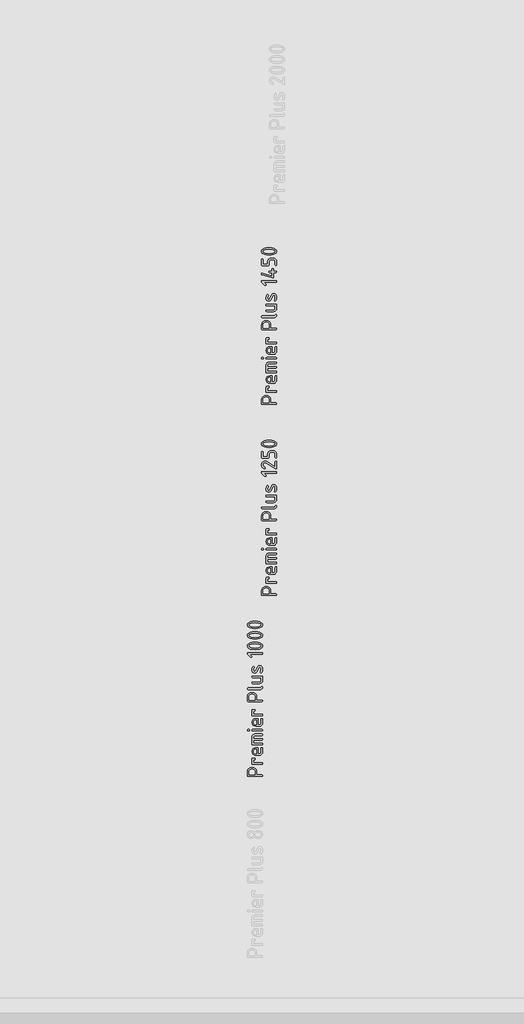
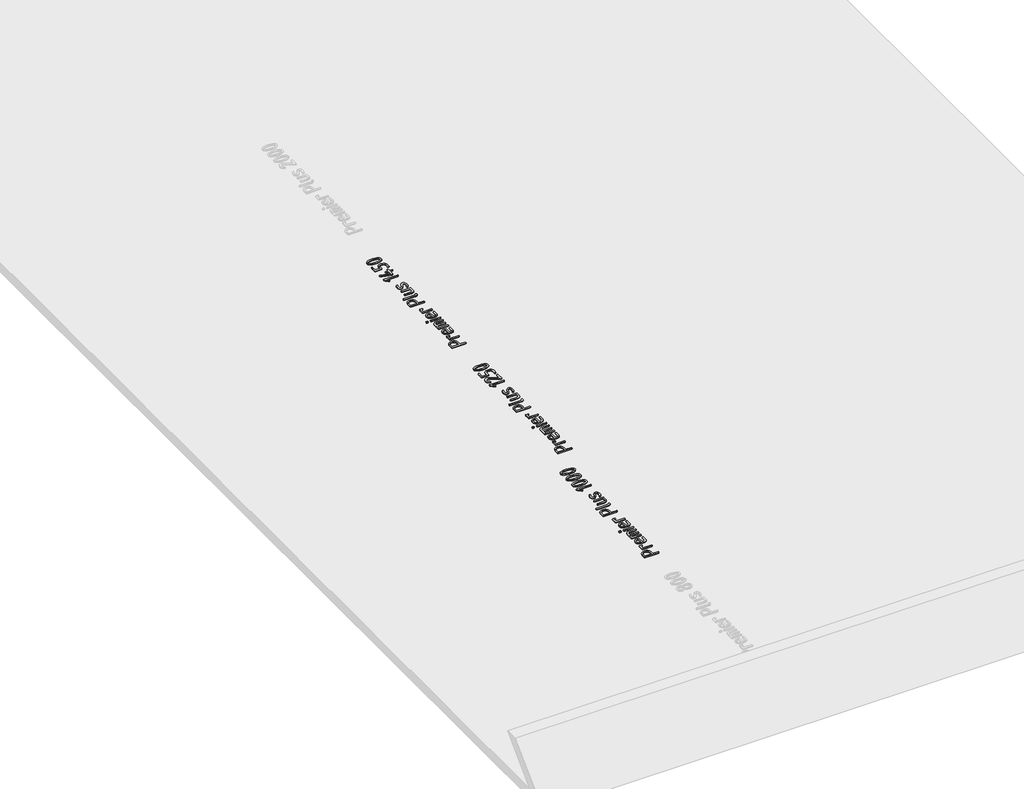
# One storey, part 22 of 37: 3 proxies.
"""IFC4 building model written with IfcOpenShell, lengths in millimetres."""

from ifc_helpers import new_model, si_unit, frame, origin, place, context, project, spatial, polyline, outline, extrude, element, save

model = new_model("IFC4")

# Units and contexts
model_context = context("Model", 3, world=origin())
ifc_project = project(units=[si_unit("LENGTHUNIT", "METRE", prefix="MILLI")], contexts=[model_context])

# Site, building, storey
site = spatial("IfcSite", under=ifc_project)
building = spatial("IfcBuilding", under=site)
storey = spatial("IfcBuildingStorey", under=building, Name="01_Стартовый вид_Площадка", Elevation=0.0)

# Proxies
placement = place(None, origin())
element("IfcBuildingElementProxy", 1, Name="150 мм", ObjectType="150 мм", at=placement, inside=storey, context=model_context, shape_type="SweptSolid", body=[
    extrude(outline(polyline([(30544.4863843, -15368.7582704), (30544.4863843, -15331.4834256), (30547.8423188, -15314.2293275), (30557.9101226, -15299.7818294), (30572.7721185, -15289.9986808), (30590.5106299, -15286.7376313), (30609.0481732, -15289.8288865), (30623.7503628, -15299.1026521), (30633.3387473, -15313.3204285), (30636.5348755, -15331.243716), (30636.5348755, -15360.8878048), (30687.9925389, -15360.8878048), (30693.50586, -15362.8054817), (30695.3436337, -15368.5585124), (30693.4559205, -15374.3115431), (30687.7927809, -15376.22922), (30552.0372371, -15376.22922), (30546.3740975, -15374.3614826), (30544.4863843, -15368.7582704)]), holes=[polyline([(30559.8277995, -15360.8878048), (30621.1934603, -15360.8878048), (30621.1934603, -15331.4834256), (30618.9711524, -15320.0922251), (30612.3042288, -15310.6087135), (30602.4112133, -15304.2114633), (30590.5106299, -15302.0790465), (30578.6100464, -15304.2114633), (30568.7170309, -15310.6087135), (30562.0501073, -15320.0922251), (30559.8277995, -15331.4834256), (30559.8277995, -15360.8878048)])]), frame((0.0, 0.0, 11.1696829), z_axis=(0.0, 0.0, 1.0), x_axis=(1.0, 0.0, 0.0)), (0.0, 0.0, 1.0), 10.0),
    extrude(outline(polyline([(30597.9815795, -15256.0548009), (30592.3783673, -15254.137124), (30590.5106299, -15248.3840933), (30590.5106299, -15203.1988314), (30592.4283068, -15197.5956192), (30598.1813375, -15195.7278818), (30613.3629463, -15195.7278818), (30618.9961221, -15197.5956192), (30620.8738474, -15203.1988314), (30618.9961221, -15208.8320073), (30613.3629463, -15210.7097326), (30605.8520451, -15210.7097326), (30605.8520451, -15240.7133857), (30687.8726841, -15240.7133857), (30693.4758963, -15242.6310626), (30695.3436337, -15248.3840933), (30693.4758963, -15254.137124), (30687.8726841, -15256.0548009), (30597.9815795, -15256.0548009)])), frame((0.0, 0.0, 11.1696829), z_axis=(0.0, 0.0, 1.0), x_axis=(1.0, 0.0, 0.0)), (0.0, 0.0, 1.0), 10.0),
    extrude(outline(polyline([(30649.3193881, -15151.2217971), (30664.6608033, -15151.2217971), (30675.4677117, -15146.7871692), (30680.0022185, -15136.2399463), (30680.0022185, -15098.7253919), (30681.9198954, -15093.092216), (30687.6729261, -15091.2144907), (30693.4259568, -15093.092216), (30695.3436337, -15098.7253919), (30695.3436337, -15136.2399463), (30693.1762593, -15147.8958262), (30686.6741361, -15157.6939566), (30677.0158363, -15164.3458983), (30665.3799322, -15166.5632123), (30627.945281, -15166.5632123), (30613.5527164, -15163.781582), (30601.4573688, -15155.4366911), (30593.2473146, -15143.196519), (30590.5106299, -15128.7290451), (30593.1674114, -15114.1517043), (30601.137756, -15102.0613507), (30612.983406, -15093.9262057), (30627.2661038, -15091.2144907), (30649.3193881, -15091.2144907), (30649.3193881, -15151.2217971)]), holes=[polyline([(30603.9743198, -15128.7290451), (30605.6223234, -15137.3585911), (30610.5663341, -15144.6297827), (30617.8375257, -15149.5737935), (30626.4670717, -15151.2217971), (30633.9779729, -15151.2217971), (30633.9779729, -15106.2362931), (30626.4670717, -15106.2362931), (30617.8375257, -15107.8842967), (30610.5663341, -15112.8283075), (30605.6223234, -15120.099499), (30603.9743198, -15128.7290451)])]), frame((0.0, 0.0, 11.1696829), z_axis=(0.0, 0.0, 1.0), x_axis=(1.0, 0.0, 0.0)), (0.0, 0.0, 1.0), 10.0),
    extrude(outline(polyline([(30590.5106299, -15054.0595008), (30590.5106299, -14985.0231324), (30592.6780043, -14973.122549), (30599.1801275, -14963.2295335), (30608.8384273, -14956.5626099), (30620.4743314, -14954.340302), (30687.8726841, -14954.340302), (30693.4758963, -14956.2579789), (30695.3436337, -14962.0110096), (30693.4758963, -14967.7640403), (30687.8726841, -14969.6817172), (30620.7539926, -14969.6817172), (30610.1468423, -14974.0963693), (30605.8520451, -14985.0231324), (30605.8520451, -15000.3645476), (30687.8726841, -15000.3645476), (30693.4758963, -15002.2822245), (30695.3436337, -15008.0352552), (30693.4758963, -15013.7882859), (30687.8726841, -15015.7059628), (30605.8520451, -15015.7059628), (30605.8520451, -15046.3887932), (30687.8726841, -15046.3887932), (30693.4758963, -15048.3064701), (30695.3436337, -15054.0595008), (30693.4758963, -15059.8125315), (30687.8726841, -15061.7302084), (30597.9815795, -15061.7302084), (30592.3783673, -15059.8125315), (30590.5106299, -15054.0595008)])), frame((0.0, 0.0, 11.1696829), z_axis=(0.0, 0.0, 1.0), x_axis=(1.0, 0.0, 0.0)), (0.0, 0.0, 1.0), 10.0),
    extrude(outline(polyline([(30597.821773, -14923.6574716), (30592.2185609, -14921.7397947), (30590.3508235, -14915.986764), (30592.2185609, -14910.2337333), (30597.821773, -14908.3160564), (30687.8327325, -14908.3160564), (30693.4659084, -14910.2337333), (30695.3436337, -14915.986764), (30693.4659084, -14921.7397947), (30687.8327325, -14923.6574716), (30597.821773, -14923.6574716)])), frame((0.0, 0.0, 11.1696829), z_axis=(0.0, 0.0, 1.0), x_axis=(1.0, 0.0, 0.0)), (0.0, 0.0, 1.0), 10.0),
    extrude(outline(polyline([(30559.5081867, -14923.6574716), (30551.9972855, -14923.6574716), (30546.3641096, -14921.7397947), (30544.4863843, -14915.986764), (30546.3641096, -14910.2337333), (30551.9972855, -14908.3160564), (30559.5081867, -14908.3160564), (30565.1413625, -14910.2337333), (30567.0190878, -14915.986764), (30565.1413625, -14921.7397947), (30559.5081867, -14923.6574716)])), frame((0.0, 0.0, 11.1696829), z_axis=(0.0, 0.0, 1.0), x_axis=(1.0, 0.0, 0.0)), (0.0, 0.0, 1.0), 10.0),
    extrude(outline(polyline([(30649.3193881, -14862.2918108), (30664.6608033, -14862.2918108), (30675.4677117, -14857.857183), (30680.0022185, -14847.3099601), (30680.0022185, -14809.7954057), (30681.9198954, -14804.1622298), (30687.6729261, -14802.2845045), (30693.4259568, -14804.1622298), (30695.3436337, -14809.7954057), (30695.3436337, -14847.3099601), (30693.1762593, -14858.96584), (30686.6741361, -14868.7639704), (30677.0158363, -14875.4159121), (30665.3799322, -14877.633226), (30627.945281, -14877.633226), (30613.5527164, -14874.8515957), (30601.4573688, -14866.5067049), (30593.2473146, -14854.2665328), (30590.5106299, -14839.7990589), (30593.1674114, -14825.2217181), (30601.137756, -14813.1313645), (30612.983406, -14804.9962195), (30627.2661038, -14802.2845045), (30649.3193881, -14802.2845045), (30649.3193881, -14862.2918108)]), holes=[polyline([(30603.9743198, -14839.7990589), (30605.6223234, -14848.4286049), (30610.5663341, -14855.6997965), (30617.8375257, -14860.6438073), (30626.4670717, -14862.2918108), (30633.9779729, -14862.2918108), (30633.9779729, -14817.3063069), (30626.4670717, -14817.3063069), (30617.8375257, -14818.9543105), (30610.5663341, -14823.8983212), (30605.6223234, -14831.1695128), (30603.9743198, -14839.7990589)])]), frame((0.0, 0.0, 11.1696829), z_axis=(0.0, 0.0, 1.0), x_axis=(1.0, 0.0, 0.0)), (0.0, 0.0, 1.0), 10.0),
    extrude(outline(polyline([(30597.9815795, -14772.8002222), (30592.3783673, -14770.8825453), (30590.5106299, -14765.1295146), (30590.5106299, -14719.9442526), (30592.4283068, -14714.3410404), (30598.1813375, -14712.4733031), (30613.3629463, -14712.4733031), (30618.9961221, -14714.3410404), (30620.8738474, -14719.9442526), (30618.9961221, -14725.5774285), (30613.3629463, -14727.4551538), (30605.8520451, -14727.4551538), (30605.8520451, -14757.458807), (30687.8726841, -14757.458807), (30693.4758963, -14759.3764839), (30695.3436337, -14765.1295146), (30693.4758963, -14770.8825453), (30687.8726841, -14772.8002222), (30597.9815795, -14772.8002222)])), frame((0.0, 0.0, 11.1696829), z_axis=(0.0, 0.0, 1.0), x_axis=(1.0, 0.0, 0.0)), (0.0, 0.0, 1.0), 10.0),
    extrude(outline(polyline([(30544.4863843, -14624.6996333), (30544.4863843, -14587.4247886), (30547.8423188, -14570.1706904), (30557.9101226, -14555.7231923), (30572.7721185, -14545.9400437), (30590.5106299, -14542.6789942), (30609.0481732, -14545.7702494), (30623.7503628, -14555.0440151), (30633.3387473, -14569.2617915), (30636.5348755, -14587.1850789), (30636.5348755, -14616.8291677), (30687.9925389, -14616.8291677), (30693.50586, -14618.7468446), (30695.3436337, -14624.4998753), (30693.4559205, -14630.252906), (30687.7927809, -14632.1705829), (30552.0372371, -14632.1705829), (30546.3740975, -14630.3028455), (30544.4863843, -14624.6996333)]), holes=[polyline([(30559.8277995, -14616.8291677), (30621.1934603, -14616.8291677), (30621.1934603, -14587.4247886), (30618.9711524, -14576.033588), (30612.3042288, -14566.5500765), (30602.4112133, -14560.1528262), (30590.5106299, -14558.0204094), (30578.6100464, -14560.1528262), (30568.7170309, -14566.5500765), (30562.0501073, -14576.033588), (30559.8277995, -14587.4247886), (30559.8277995, -14616.8291677)])]), frame((0.0, 0.0, 11.1696829), z_axis=(0.0, 0.0, 1.0), x_axis=(1.0, 0.0, 0.0)), (0.0, 0.0, 1.0), 10.0),
    extrude(outline(polyline([(30552.0372371, -14511.9961638), (30546.3740975, -14510.0784869), (30544.4863843, -14504.3254562), (30546.3740975, -14498.5724255), (30552.0372371, -14496.6547486), (30672.7310269, -14496.6547486), (30677.5052434, -14494.7820173), (30680.2419281, -14489.1638232), (30682.9886008, -14483.5456292), (30687.7927809, -14481.6728979), (30693.4559205, -14483.5406353), (30695.3436337, -14489.1438474), (30693.8454486, -14498.3676736), (30689.3508934, -14505.6638349), (30682.1995566, -14510.4130816), (30672.7310269, -14511.9961638), (30552.0372371, -14511.9961638)])), frame((0.0, 0.0, 11.1696829), z_axis=(0.0, 0.0, 1.0), x_axis=(1.0, 0.0, 0.0)), (0.0, 0.0, 1.0), 10.0),
    extrude(outline(polyline([(30597.9815795, -14379.0372321), (30687.8726841, -14379.0372321), (30693.4758963, -14380.8949816), (30695.3436337, -14386.4682301), (30695.3436337, -14423.5433168), (30693.1762593, -14435.0393903), (30686.6741361, -14444.5978111), (30677.0158363, -14451.040007), (30665.3799322, -14453.1874056), (30597.9815795, -14453.1874056), (30592.3783673, -14451.2697287), (30590.5106299, -14445.516698), (30592.3783673, -14439.7636673), (30597.9815795, -14437.8459904), (30665.1002709, -14437.8459904), (30675.5875665, -14433.571169), (30680.0022185, -14423.3435588), (30680.0022185, -14394.3786473), (30597.9815795, -14394.3786473), (30592.3783673, -14392.4609704), (30590.5106299, -14386.7079397), (30592.3783673, -14380.954909), (30597.9815795, -14379.0372321)])), frame((0.0, 0.0, 11.1696829), z_axis=(0.0, 0.0, 1.0), x_axis=(1.0, 0.0, 0.0)), (0.0, 0.0, 1.0), 10.0),
    extrude(outline(polyline([(30668.8157699, -14288.7066598), (30662.6931869, -14290.294736), (30658.6281114, -14295.0589646), (30640.1704712, -14333.572309), (30630.6420142, -14344.9285518), (30616.5191228, -14348.7139661), (30605.0929646, -14346.0372088), (30596.623225, -14338.0069368), (30592.0387786, -14327.6794476), (30590.5106299, -14315.0747172), (30592.6280648, -14299.2239191), (30598.9803695, -14285.1509672), (30605.7321903, -14281.1957586), (30611.0257775, -14283.4130725), (30613.2430914, -14288.7066598), (30612.3242046, -14292.2224008), (30607.4700849, -14303.3289462), (30605.8520451, -14315.0747172), (30608.6286814, -14329.0378021), (30616.9585904, -14333.6921638), (30622.9413429, -14332.1540271), (30626.9065394, -14327.539617), (30645.5639375, -14288.7066598), (30655.0923946, -14277.440308), (30669.215286, -14273.6848574), (30681.1008876, -14276.3815906), (30689.590603, -14284.47179), (30693.905376, -14295.0290009), (30695.3436337, -14308.2429932), (30693.2261988, -14328.0889516), (30686.8738941, -14344.4790963), (30680.0022185, -14348.7139661), (30674.7086312, -14346.4966522), (30672.4913173, -14341.203065), (30673.0506398, -14338.3665012), (30677.245558, -14327.6594718), (30680.0022185, -14307.8035256), (30677.2056064, -14293.4808763), (30668.8157699, -14288.7066598)])), frame((0.0, 0.0, 11.1696829), z_axis=(0.0, 0.0, 1.0), x_axis=(1.0, 0.0, 0.0)), (0.0, 0.0, 1.0), 10.0),
    extrude(outline(polyline([(30570.215216, -14161.7005168), (30587.5142597, -14178.9596089), (30589.6716462, -14184.1932688), (30587.7939209, -14189.8264447), (30582.160745, -14191.70417), (30576.9270852, -14189.5068319), (30547.4428028, -14160.1823559), (30544.4863843, -14154.0298092), (30546.3740975, -14148.2767785), (30552.0372371, -14146.3591016), (30687.7927809, -14146.3591016), (30693.4559205, -14148.2767785), (30695.3436337, -14154.0298092), (30693.4559205, -14159.7828399), (30687.7927809, -14161.7005168), (30570.215216, -14161.7005168)])), frame((0.0, 0.0, 11.1696829), z_axis=(0.0, 0.0, 1.0), x_axis=(1.0, 0.0, 0.0)), (0.0, 0.0, 1.0), 10.0),
    extrude(outline(polyline([(30619.915009, -14041.5260978), (30645.0545546, -14043.1541256), (30666.5385286, -14048.0382089), (30688.1423574, -14060.4531693), (30693.5433146, -14068.810545), (30695.3436337, -14078.6011845), (30693.5508056, -14088.391824), (30688.1723211, -14096.7491997), (30666.6583834, -14109.1641601), (30645.1444457, -14114.0482434), (30619.915009, -14115.6762712), (30594.6855723, -14114.0482434), (30573.1716346, -14109.1641601), (30551.6576968, -14096.7491997), (30546.2792124, -14088.391824), (30544.4863843, -14078.6011845), (30546.2867033, -14068.810545), (30551.6876605, -14060.4531693), (30573.2914894, -14048.0382089), (30594.7754634, -14043.1541256), (30619.915009, -14041.5260978)]), holes=[polyline([(30619.915009, -14056.867513), (30584.7575992, -14060.7028668), (30566.0602494, -14068.0939132), (30559.8277995, -14078.6011845), (30566.0902131, -14089.0185647), (30584.877454, -14096.3796474), (30619.915009, -14100.334856), (30655.0724188, -14096.4995022), (30673.7697686, -14089.1084558), (30680.0022185, -14078.6011845), (30673.7697686, -14068.0939132), (30655.0724188, -14060.7028668), (30619.915009, -14056.867513)])]), frame((0.0, 0.0, 11.1696829), z_axis=(0.0, 0.0, 1.0), x_axis=(1.0, 0.0, 0.0)), (0.0, 0.0, 1.0), 10.0),
    extrude(outline(polyline([(30619.915009, -13936.6930939), (30645.0545546, -13938.3211217), (30666.5385286, -13943.2052051), (30688.1423574, -13955.6201654), (30693.5433146, -13963.9775412), (30695.3436337, -13973.7681807), (30693.5508056, -13983.5588201), (30688.1723211, -13991.9161959), (30666.6583834, -14004.3311562), (30645.1444457, -14009.2152396), (30619.915009, -14010.8432674), (30594.6855723, -14009.2152396), (30573.1716346, -14004.3311562), (30551.6576968, -13991.9161959), (30546.2792124, -13983.5588201), (30544.4863843, -13973.7681807), (30546.2867033, -13963.9775412), (30551.6876605, -13955.6201654), (30573.2914894, -13943.2052051), (30594.7754634, -13938.3211217), (30619.915009, -13936.6930939)]), holes=[polyline([(30619.915009, -13952.0345091), (30584.7575992, -13955.8698629), (30566.0602494, -13963.2609093), (30559.8277995, -13973.7681807), (30566.0902131, -13984.1855609), (30584.877454, -13991.5466436), (30619.915009, -13995.5018522), (30655.0724188, -13991.6664984), (30673.7697686, -13984.275452), (30680.0022185, -13973.7681807), (30673.7697686, -13963.2609093), (30655.0724188, -13955.8698629), (30619.915009, -13952.0345091)])]), frame((0.0, 0.0, 11.1696829), z_axis=(0.0, 0.0, 1.0), x_axis=(1.0, 0.0, 0.0)), (0.0, 0.0, 1.0), 10.0),
    extrude(outline(polyline([(30619.915009, -13831.8600901), (30645.0545546, -13833.4881179), (30666.5385286, -13838.3722012), (30688.1423574, -13850.7871616), (30693.5433146, -13859.1445373), (30695.3436337, -13868.9351768), (30693.5508056, -13878.7258163), (30688.1723211, -13887.083192), (30666.6583834, -13899.4981524), (30645.1444457, -13904.3822357), (30619.915009, -13906.0102635), (30594.6855723, -13904.3822357), (30573.1716346, -13899.4981524), (30551.6576968, -13887.083192), (30546.2792124, -13878.7258163), (30544.4863843, -13868.9351768), (30546.2867033, -13859.1445373), (30551.6876605, -13850.7871616), (30573.2914894, -13838.3722012), (30594.7754634, -13833.4881179), (30619.915009, -13831.8600901)]), holes=[polyline([(30619.915009, -13847.2015053), (30584.7575992, -13851.0368591), (30566.0602494, -13858.4279055), (30559.8277995, -13868.9351768), (30566.0902131, -13879.352557), (30584.877454, -13886.7136397), (30619.915009, -13890.6688483), (30655.0724188, -13886.8334945), (30673.7697686, -13879.4424481), (30680.0022185, -13868.9351768), (30673.7697686, -13858.4279055), (30655.0724188, -13851.0368591), (30619.915009, -13847.2015053)])]), frame((0.0, 0.0, 11.1696829), z_axis=(0.0, 0.0, 1.0), x_axis=(1.0, 0.0, 0.0)), (0.0, 0.0, 1.0), 10.0),
])
element("IfcBuildingElementProxy", 2, Name="150 мм", ObjectType="150 мм", at=placement, inside=storey, context=model_context, shape_type="SweptSolid", body=[
    extrude(outline(polyline([(30684.4863843, -13568.7582704), (30684.4863843, -13531.4834256), (30687.8423188, -13514.2293275), (30697.9101226, -13499.7818294), (30712.7721185, -13489.9986808), (30730.5106299, -13486.7376313), (30749.0481732, -13489.8288865), (30763.7503628, -13499.1026521), (30773.3387473, -13513.3204285), (30776.5348755, -13531.243716), (30776.5348755, -13560.8878048), (30827.9925389, -13560.8878048), (30833.50586, -13562.8054817), (30835.3436337, -13568.5585124), (30833.4559205, -13574.3115431), (30827.7927809, -13576.22922), (30692.0372371, -13576.22922), (30686.3740975, -13574.3614826), (30684.4863843, -13568.7582704)]), holes=[polyline([(30699.8277995, -13560.8878048), (30761.1934603, -13560.8878048), (30761.1934603, -13531.4834256), (30758.9711524, -13520.0922251), (30752.3042288, -13510.6087135), (30742.4112133, -13504.2114633), (30730.5106299, -13502.0790465), (30718.6100464, -13504.2114633), (30708.7170309, -13510.6087135), (30702.0501073, -13520.0922251), (30699.8277995, -13531.4834256), (30699.8277995, -13560.8878048)])]), frame((0.0, 0.0, 11.1696829), z_axis=(0.0, 0.0, 1.0), x_axis=(1.0, 0.0, 0.0)), (0.0, 0.0, 1.0), 10.0),
    extrude(outline(polyline([(30737.9815795, -13456.0548009), (30732.3783673, -13454.137124), (30730.5106299, -13448.3840933), (30730.5106299, -13403.1988314), (30732.4283068, -13397.5956192), (30738.1813375, -13395.7278818), (30753.3629463, -13395.7278818), (30758.9961221, -13397.5956192), (30760.8738474, -13403.1988314), (30758.9961221, -13408.8320073), (30753.3629463, -13410.7097326), (30745.8520451, -13410.7097326), (30745.8520451, -13440.7133857), (30827.8726841, -13440.7133857), (30833.4758963, -13442.6310626), (30835.3436337, -13448.3840933), (30833.4758963, -13454.137124), (30827.8726841, -13456.0548009), (30737.9815795, -13456.0548009)])), frame((0.0, 0.0, 11.1696829), z_axis=(0.0, 0.0, 1.0), x_axis=(1.0, 0.0, 0.0)), (0.0, 0.0, 1.0), 10.0),
    extrude(outline(polyline([(30789.3193881, -13351.2217971), (30804.6608033, -13351.2217971), (30815.4677117, -13346.7871692), (30820.0022185, -13336.2399463), (30820.0022185, -13298.7253919), (30821.9198954, -13293.092216), (30827.6729261, -13291.2144907), (30833.4259568, -13293.092216), (30835.3436337, -13298.7253919), (30835.3436337, -13336.2399463), (30833.1762593, -13347.8958262), (30826.6741361, -13357.6939566), (30817.0158363, -13364.3458983), (30805.3799322, -13366.5632123), (30767.945281, -13366.5632123), (30753.5527164, -13363.781582), (30741.4573688, -13355.4366911), (30733.2473146, -13343.196519), (30730.5106299, -13328.7290451), (30733.1674114, -13314.1517043), (30741.137756, -13302.0613507), (30752.983406, -13293.9262057), (30767.2661038, -13291.2144907), (30789.3193881, -13291.2144907), (30789.3193881, -13351.2217971)]), holes=[polyline([(30743.9743198, -13328.7290451), (30745.6223234, -13337.3585911), (30750.5663341, -13344.6297827), (30757.8375257, -13349.5737935), (30766.4670717, -13351.2217971), (30773.9779729, -13351.2217971), (30773.9779729, -13306.2362931), (30766.4670717, -13306.2362931), (30757.8375257, -13307.8842967), (30750.5663341, -13312.8283075), (30745.6223234, -13320.099499), (30743.9743198, -13328.7290451)])]), frame((0.0, 0.0, 11.1696829), z_axis=(0.0, 0.0, 1.0), x_axis=(1.0, 0.0, 0.0)), (0.0, 0.0, 1.0), 10.0),
    extrude(outline(polyline([(30730.5106299, -13254.0595008), (30730.5106299, -13185.0231324), (30732.6780043, -13173.122549), (30739.1801275, -13163.2295335), (30748.8384273, -13156.5626099), (30760.4743314, -13154.340302), (30827.8726841, -13154.340302), (30833.4758963, -13156.2579789), (30835.3436337, -13162.0110096), (30833.4758963, -13167.7640403), (30827.8726841, -13169.6817172), (30760.7539926, -13169.6817172), (30750.1468423, -13174.0963693), (30745.8520451, -13185.0231324), (30745.8520451, -13200.3645476), (30827.8726841, -13200.3645476), (30833.4758963, -13202.2822245), (30835.3436337, -13208.0352552), (30833.4758963, -13213.7882859), (30827.8726841, -13215.7059628), (30745.8520451, -13215.7059628), (30745.8520451, -13246.3887932), (30827.8726841, -13246.3887932), (30833.4758963, -13248.3064701), (30835.3436337, -13254.0595008), (30833.4758963, -13259.8125315), (30827.8726841, -13261.7302084), (30737.9815795, -13261.7302084), (30732.3783673, -13259.8125315), (30730.5106299, -13254.0595008)])), frame((0.0, 0.0, 11.1696829), z_axis=(0.0, 0.0, 1.0), x_axis=(1.0, 0.0, 0.0)), (0.0, 0.0, 1.0), 10.0),
    extrude(outline(polyline([(30737.821773, -13123.6574716), (30732.2185609, -13121.7397947), (30730.3508235, -13115.986764), (30732.2185609, -13110.2337333), (30737.821773, -13108.3160564), (30827.8327325, -13108.3160564), (30833.4659084, -13110.2337333), (30835.3436337, -13115.986764), (30833.4659084, -13121.7397947), (30827.8327325, -13123.6574716), (30737.821773, -13123.6574716)])), frame((0.0, 0.0, 11.1696829), z_axis=(0.0, 0.0, 1.0), x_axis=(1.0, 0.0, 0.0)), (0.0, 0.0, 1.0), 10.0),
    extrude(outline(polyline([(30699.5081867, -13123.6574716), (30691.9972855, -13123.6574716), (30686.3641096, -13121.7397947), (30684.4863843, -13115.986764), (30686.3641096, -13110.2337333), (30691.9972855, -13108.3160564), (30699.5081867, -13108.3160564), (30705.1413625, -13110.2337333), (30707.0190878, -13115.986764), (30705.1413625, -13121.7397947), (30699.5081867, -13123.6574716)])), frame((0.0, 0.0, 11.1696829), z_axis=(0.0, 0.0, 1.0), x_axis=(1.0, 0.0, 0.0)), (0.0, 0.0, 1.0), 10.0),
    extrude(outline(polyline([(30789.3193881, -13062.2918108), (30804.6608033, -13062.2918108), (30815.4677117, -13057.857183), (30820.0022185, -13047.3099601), (30820.0022185, -13009.7954057), (30821.9198954, -13004.1622298), (30827.6729261, -13002.2845045), (30833.4259568, -13004.1622298), (30835.3436337, -13009.7954057), (30835.3436337, -13047.3099601), (30833.1762593, -13058.96584), (30826.6741361, -13068.7639704), (30817.0158363, -13075.4159121), (30805.3799322, -13077.633226), (30767.945281, -13077.633226), (30753.5527164, -13074.8515957), (30741.4573688, -13066.5067049), (30733.2473146, -13054.2665328), (30730.5106299, -13039.7990589), (30733.1674114, -13025.2217181), (30741.137756, -13013.1313645), (30752.983406, -13004.9962195), (30767.2661038, -13002.2845045), (30789.3193881, -13002.2845045), (30789.3193881, -13062.2918108)]), holes=[polyline([(30743.9743198, -13039.7990589), (30745.6223234, -13048.4286049), (30750.5663341, -13055.6997965), (30757.8375257, -13060.6438073), (30766.4670717, -13062.2918108), (30773.9779729, -13062.2918108), (30773.9779729, -13017.3063069), (30766.4670717, -13017.3063069), (30757.8375257, -13018.9543105), (30750.5663341, -13023.8983212), (30745.6223234, -13031.1695128), (30743.9743198, -13039.7990589)])]), frame((0.0, 0.0, 11.1696829), z_axis=(0.0, 0.0, 1.0), x_axis=(1.0, 0.0, 0.0)), (0.0, 0.0, 1.0), 10.0),
    extrude(outline(polyline([(30737.9815795, -12972.8002222), (30732.3783673, -12970.8825453), (30730.5106299, -12965.1295146), (30730.5106299, -12919.9442526), (30732.4283068, -12914.3410404), (30738.1813375, -12912.4733031), (30753.3629463, -12912.4733031), (30758.9961221, -12914.3410404), (30760.8738474, -12919.9442526), (30758.9961221, -12925.5774285), (30753.3629463, -12927.4551538), (30745.8520451, -12927.4551538), (30745.8520451, -12957.458807), (30827.8726841, -12957.458807), (30833.4758963, -12959.3764839), (30835.3436337, -12965.1295146), (30833.4758963, -12970.8825453), (30827.8726841, -12972.8002222), (30737.9815795, -12972.8002222)])), frame((0.0, 0.0, 11.1696829), z_axis=(0.0, 0.0, 1.0), x_axis=(1.0, 0.0, 0.0)), (0.0, 0.0, 1.0), 10.0),
    extrude(outline(polyline([(30684.4863843, -12824.6996333), (30684.4863843, -12787.4247886), (30687.8423188, -12770.1706904), (30697.9101226, -12755.7231923), (30712.7721185, -12745.9400437), (30730.5106299, -12742.6789942), (30749.0481732, -12745.7702494), (30763.7503628, -12755.0440151), (30773.3387473, -12769.2617915), (30776.5348755, -12787.1850789), (30776.5348755, -12816.8291677), (30827.9925389, -12816.8291677), (30833.50586, -12818.7468446), (30835.3436337, -12824.4998753), (30833.4559205, -12830.252906), (30827.7927809, -12832.1705829), (30692.0372371, -12832.1705829), (30686.3740975, -12830.3028455), (30684.4863843, -12824.6996333)]), holes=[polyline([(30699.8277995, -12816.8291677), (30761.1934603, -12816.8291677), (30761.1934603, -12787.4247886), (30758.9711524, -12776.033588), (30752.3042288, -12766.5500765), (30742.4112133, -12760.1528262), (30730.5106299, -12758.0204094), (30718.6100464, -12760.1528262), (30708.7170309, -12766.5500765), (30702.0501073, -12776.033588), (30699.8277995, -12787.4247886), (30699.8277995, -12816.8291677)])]), frame((0.0, 0.0, 11.1696829), z_axis=(0.0, 0.0, 1.0), x_axis=(1.0, 0.0, 0.0)), (0.0, 0.0, 1.0), 10.0),
    extrude(outline(polyline([(30692.0372371, -12711.9961638), (30686.3740975, -12710.0784869), (30684.4863843, -12704.3254562), (30686.3740975, -12698.5724255), (30692.0372371, -12696.6547486), (30812.7310269, -12696.6547486), (30817.5052434, -12694.7820173), (30820.2419281, -12689.1638232), (30822.9886008, -12683.5456292), (30827.7927809, -12681.6728979), (30833.4559205, -12683.5406353), (30835.3436337, -12689.1438474), (30833.8454486, -12698.3676736), (30829.3508934, -12705.6638349), (30822.1995566, -12710.4130816), (30812.7310269, -12711.9961638), (30692.0372371, -12711.9961638)])), frame((0.0, 0.0, 11.1696829), z_axis=(0.0, 0.0, 1.0), x_axis=(1.0, 0.0, 0.0)), (0.0, 0.0, 1.0), 10.0),
    extrude(outline(polyline([(30737.9815795, -12579.0372321), (30827.8726841, -12579.0372321), (30833.4758963, -12580.8949816), (30835.3436337, -12586.4682301), (30835.3436337, -12623.5433168), (30833.1762593, -12635.0393903), (30826.6741361, -12644.5978111), (30817.0158363, -12651.040007), (30805.3799322, -12653.1874056), (30737.9815795, -12653.1874056), (30732.3783673, -12651.2697287), (30730.5106299, -12645.516698), (30732.3783673, -12639.7636673), (30737.9815795, -12637.8459904), (30805.1002709, -12637.8459904), (30815.5875665, -12633.571169), (30820.0022185, -12623.3435588), (30820.0022185, -12594.3786473), (30737.9815795, -12594.3786473), (30732.3783673, -12592.4609704), (30730.5106299, -12586.7079397), (30732.3783673, -12580.954909), (30737.9815795, -12579.0372321)])), frame((0.0, 0.0, 11.1696829), z_axis=(0.0, 0.0, 1.0), x_axis=(1.0, 0.0, 0.0)), (0.0, 0.0, 1.0), 10.0),
    extrude(outline(polyline([(30808.8157699, -12488.7066598), (30802.6931869, -12490.294736), (30798.6281114, -12495.0589646), (30780.1704712, -12533.572309), (30770.6420142, -12544.9285518), (30756.5191228, -12548.7139661), (30745.0929646, -12546.0372088), (30736.623225, -12538.0069368), (30732.0387786, -12527.6794476), (30730.5106299, -12515.0747172), (30732.6280648, -12499.2239191), (30738.9803695, -12485.1509672), (30745.7321903, -12481.1957586), (30751.0257775, -12483.4130725), (30753.2430914, -12488.7066598), (30752.3242046, -12492.2224008), (30747.4700849, -12503.3289462), (30745.8520451, -12515.0747172), (30748.6286814, -12529.0378021), (30756.9585904, -12533.6921638), (30762.9413429, -12532.1540271), (30766.9065394, -12527.539617), (30785.5639375, -12488.7066598), (30795.0923946, -12477.440308), (30809.215286, -12473.6848574), (30821.1008876, -12476.3815906), (30829.590603, -12484.47179), (30833.905376, -12495.0290009), (30835.3436337, -12508.2429932), (30833.2261988, -12528.0889516), (30826.8738941, -12544.4790963), (30820.0022185, -12548.7139661), (30814.7086312, -12546.4966522), (30812.4913173, -12541.203065), (30813.0506398, -12538.3665012), (30817.245558, -12527.6594718), (30820.0022185, -12507.8035256), (30817.2056064, -12493.4808763), (30808.8157699, -12488.7066598)])), frame((0.0, 0.0, 11.1696829), z_axis=(0.0, 0.0, 1.0), x_axis=(1.0, 0.0, 0.0)), (0.0, 0.0, 1.0), 10.0),
    extrude(outline(polyline([(30710.215216, -12361.7005168), (30727.5142597, -12378.9596089), (30729.6716462, -12384.1932688), (30727.7939209, -12389.8264447), (30722.160745, -12391.70417), (30716.9270852, -12389.5068319), (30687.4428028, -12360.1823559), (30684.4863843, -12354.0298092), (30686.3740975, -12348.2767785), (30692.0372371, -12346.3591016), (30827.7927809, -12346.3591016), (30833.4559205, -12348.2767785), (30835.3436337, -12354.0298092), (30833.4559205, -12359.7828399), (30827.7927809, -12361.7005168), (30710.215216, -12361.7005168)])), frame((0.0, 0.0, 11.1696829), z_axis=(0.0, 0.0, 1.0), x_axis=(1.0, 0.0, 0.0)), (0.0, 0.0, 1.0), 10.0),
    extrude(outline(polyline([(30684.4863843, -12278.5212813), (30687.2380509, -12264.093759), (30695.4930506, -12251.9734417), (30707.6533195, -12243.7484056), (30722.1207934, -12241.0067269), (30732.9177139, -12242.7146579), (30743.8145134, -12247.8384509), (30820.0022185, -12295.1011962), (30820.0022185, -12248.5176281), (30821.9198954, -12242.8844522), (30827.6729261, -12241.0067269), (30833.4259568, -12242.8844522), (30835.3436337, -12248.5176281), (30835.3436337, -12308.5249345), (30833.4659084, -12314.1581103), (30827.8327325, -12316.0358356), (30823.4780079, -12314.7573844), (30734.8653545, -12259.7839799), (30722.4004546, -12256.0285293), (30713.7359509, -12257.6765329), (30706.4397896, -12262.6205437), (30701.480797, -12269.8917352), (30699.8277995, -12278.5212813), (30704.5420885, -12290.7564594), (30718.6849557, -12302.0527749), (30722.3205514, -12308.5249345), (30720.4428261, -12314.1581103), (30714.8096503, -12316.0358356), (30711.7333769, -12315.3167068), (30691.2981324, -12299.1462959), (30686.1893213, -12289.390614), (30684.4863843, -12278.5212813)])), frame((0.0, 0.0, 11.1696829), z_axis=(0.0, 0.0, 1.0), x_axis=(1.0, 0.0, 0.0)), (0.0, 0.0, 1.0), 10.0),
    extrude(outline(polyline([(30753.5227527, -12210.8432674), (30692.1570919, -12210.8432674), (30686.4040612, -12209.0054937), (30684.4863843, -12203.4921726), (30684.4863843, -12152.0345091), (30686.4040612, -12146.4013332), (30692.1570919, -12144.5236079), (30697.9101226, -12146.4013332), (30699.8277995, -12152.0345091), (30699.8277995, -12195.5018522), (30745.8520451, -12195.5018522), (30745.8520451, -12173.4485678), (30748.5937238, -12159.3156886), (30756.8187598, -12147.4400749), (30768.8791497, -12139.3798392), (30783.1268898, -12136.6930939), (30798.068789, -12136.6930939), (30812.3914383, -12139.4197908), (30824.4368464, -12147.5998813), (30832.6169369, -12159.5953498), (30835.3436337, -12173.7681807), (30835.3436337, -12203.4122694), (30833.4259568, -12208.9855179), (30827.6729261, -12210.8432674), (30821.9198954, -12209.0054937), (30820.0022185, -12203.4921726), (30820.0022185, -12174.0877935), (30818.3991605, -12165.5631204), (30813.5899864, -12158.4467413), (30806.4736073, -12153.6375672), (30797.9489342, -12152.0345091), (30783.2467446, -12152.0345091), (30774.772011, -12153.6475551), (30767.645644, -12158.4866929), (30762.8065062, -12165.6130599), (30761.1934603, -12174.0877935), (30761.1934603, -12203.4921726), (30759.2757834, -12209.0054937), (30753.5227527, -12210.8432674)])), frame((0.0, 0.0, 11.1696829), z_axis=(0.0, 0.0, 1.0), x_axis=(1.0, 0.0, 0.0)), (0.0, 0.0, 1.0), 10.0),
    extrude(outline(polyline([(30759.915009, -12031.8600901), (30785.0545546, -12033.4881179), (30806.5385286, -12038.3722012), (30828.1423574, -12050.7871616), (30833.5433146, -12059.1445373), (30835.3436337, -12068.9351768), (30833.5508056, -12078.7258163), (30828.1723211, -12087.083192), (30806.6583834, -12099.4981524), (30785.1444457, -12104.3822357), (30759.915009, -12106.0102635), (30734.6855723, -12104.3822357), (30713.1716346, -12099.4981524), (30691.6576968, -12087.083192), (30686.2792124, -12078.7258163), (30684.4863843, -12068.9351768), (30686.2867033, -12059.1445373), (30691.6876605, -12050.7871616), (30713.2914894, -12038.3722012), (30734.7754634, -12033.4881179), (30759.915009, -12031.8600901)]), holes=[polyline([(30759.915009, -12047.2015053), (30724.7575992, -12051.0368591), (30706.0602494, -12058.4279055), (30699.8277995, -12068.9351768), (30706.0902131, -12079.352557), (30724.877454, -12086.7136397), (30759.915009, -12090.6688483), (30795.0724188, -12086.8334945), (30813.7697686, -12079.4424481), (30820.0022185, -12068.9351768), (30813.7697686, -12058.4279055), (30795.0724188, -12051.0368591), (30759.915009, -12047.2015053)])]), frame((0.0, 0.0, 11.1696829), z_axis=(0.0, 0.0, 1.0), x_axis=(1.0, 0.0, 0.0)), (0.0, 0.0, 1.0), 10.0),
])
element("IfcBuildingElementProxy", 3, Name="150 мм", ObjectType="150 мм", at=placement, inside=storey, context=model_context, shape_type="SweptSolid", body=[
    extrude(outline(polyline([(30684.4863843, -11668.7582704), (30684.4863843, -11631.4834256), (30687.8423188, -11614.2293275), (30697.9101226, -11599.7818294), (30712.7721185, -11589.9986808), (30730.5106299, -11586.7376313), (30749.0481732, -11589.8288865), (30763.7503628, -11599.1026521), (30773.3387473, -11613.3204285), (30776.5348755, -11631.243716), (30776.5348755, -11660.8878048), (30827.9925389, -11660.8878048), (30833.50586, -11662.8054817), (30835.3436337, -11668.5585124), (30833.4559205, -11674.3115431), (30827.7927809, -11676.22922), (30692.0372371, -11676.22922), (30686.3740975, -11674.3614826), (30684.4863843, -11668.7582704)]), holes=[polyline([(30699.8277995, -11660.8878048), (30761.1934603, -11660.8878048), (30761.1934603, -11631.4834256), (30758.9711524, -11620.0922251), (30752.3042288, -11610.6087135), (30742.4112133, -11604.2114633), (30730.5106299, -11602.0790465), (30718.6100464, -11604.2114633), (30708.7170309, -11610.6087135), (30702.0501073, -11620.0922251), (30699.8277995, -11631.4834256), (30699.8277995, -11660.8878048)])]), frame((0.0, 0.0, 11.1696829), z_axis=(0.0, 0.0, 1.0), x_axis=(1.0, 0.0, 0.0)), (0.0, 0.0, 1.0), 10.0),
    extrude(outline(polyline([(30737.9815795, -11556.0548009), (30732.3783673, -11554.137124), (30730.5106299, -11548.3840933), (30730.5106299, -11503.1988314), (30732.4283068, -11497.5956192), (30738.1813375, -11495.7278818), (30753.3629463, -11495.7278818), (30758.9961221, -11497.5956192), (30760.8738474, -11503.1988314), (30758.9961221, -11508.8320073), (30753.3629463, -11510.7097326), (30745.8520451, -11510.7097326), (30745.8520451, -11540.7133857), (30827.8726841, -11540.7133857), (30833.4758963, -11542.6310626), (30835.3436337, -11548.3840933), (30833.4758963, -11554.137124), (30827.8726841, -11556.0548009), (30737.9815795, -11556.0548009)])), frame((0.0, 0.0, 11.1696829), z_axis=(0.0, 0.0, 1.0), x_axis=(1.0, 0.0, 0.0)), (0.0, 0.0, 1.0), 10.0),
    extrude(outline(polyline([(30789.3193881, -11451.2217971), (30804.6608033, -11451.2217971), (30815.4677117, -11446.7871692), (30820.0022185, -11436.2399463), (30820.0022185, -11398.7253919), (30821.9198954, -11393.092216), (30827.6729261, -11391.2144907), (30833.4259568, -11393.092216), (30835.3436337, -11398.7253919), (30835.3436337, -11436.2399463), (30833.1762593, -11447.8958262), (30826.6741361, -11457.6939566), (30817.0158363, -11464.3458983), (30805.3799322, -11466.5632123), (30767.945281, -11466.5632123), (30753.5527164, -11463.781582), (30741.4573688, -11455.4366911), (30733.2473146, -11443.196519), (30730.5106299, -11428.7290451), (30733.1674114, -11414.1517043), (30741.137756, -11402.0613507), (30752.983406, -11393.9262057), (30767.2661038, -11391.2144907), (30789.3193881, -11391.2144907), (30789.3193881, -11451.2217971)]), holes=[polyline([(30743.9743198, -11428.7290451), (30745.6223234, -11437.3585911), (30750.5663341, -11444.6297827), (30757.8375257, -11449.5737935), (30766.4670717, -11451.2217971), (30773.9779729, -11451.2217971), (30773.9779729, -11406.2362931), (30766.4670717, -11406.2362931), (30757.8375257, -11407.8842967), (30750.5663341, -11412.8283075), (30745.6223234, -11420.099499), (30743.9743198, -11428.7290451)])]), frame((0.0, 0.0, 11.1696829), z_axis=(0.0, 0.0, 1.0), x_axis=(1.0, 0.0, 0.0)), (0.0, 0.0, 1.0), 10.0),
    extrude(outline(polyline([(30730.5106299, -11354.0595008), (30730.5106299, -11285.0231324), (30732.6780043, -11273.122549), (30739.1801275, -11263.2295335), (30748.8384273, -11256.5626099), (30760.4743314, -11254.340302), (30827.8726841, -11254.340302), (30833.4758963, -11256.2579789), (30835.3436337, -11262.0110096), (30833.4758963, -11267.7640403), (30827.8726841, -11269.6817172), (30760.7539926, -11269.6817172), (30750.1468423, -11274.0963693), (30745.8520451, -11285.0231324), (30745.8520451, -11300.3645476), (30827.8726841, -11300.3645476), (30833.4758963, -11302.2822245), (30835.3436337, -11308.0352552), (30833.4758963, -11313.7882859), (30827.8726841, -11315.7059628), (30745.8520451, -11315.7059628), (30745.8520451, -11346.3887932), (30827.8726841, -11346.3887932), (30833.4758963, -11348.3064701), (30835.3436337, -11354.0595008), (30833.4758963, -11359.8125315), (30827.8726841, -11361.7302084), (30737.9815795, -11361.7302084), (30732.3783673, -11359.8125315), (30730.5106299, -11354.0595008)])), frame((0.0, 0.0, 11.1696829), z_axis=(0.0, 0.0, 1.0), x_axis=(1.0, 0.0, 0.0)), (0.0, 0.0, 1.0), 10.0),
    extrude(outline(polyline([(30737.821773, -11223.6574716), (30732.2185609, -11221.7397947), (30730.3508235, -11215.986764), (30732.2185609, -11210.2337333), (30737.821773, -11208.3160564), (30827.8327325, -11208.3160564), (30833.4659084, -11210.2337333), (30835.3436337, -11215.986764), (30833.4659084, -11221.7397947), (30827.8327325, -11223.6574716), (30737.821773, -11223.6574716)])), frame((0.0, 0.0, 11.1696829), z_axis=(0.0, 0.0, 1.0), x_axis=(1.0, 0.0, 0.0)), (0.0, 0.0, 1.0), 10.0),
    extrude(outline(polyline([(30699.5081867, -11223.6574716), (30691.9972855, -11223.6574716), (30686.3641096, -11221.7397947), (30684.4863843, -11215.986764), (30686.3641096, -11210.2337333), (30691.9972855, -11208.3160564), (30699.5081867, -11208.3160564), (30705.1413625, -11210.2337333), (30707.0190878, -11215.986764), (30705.1413625, -11221.7397947), (30699.5081867, -11223.6574716)])), frame((0.0, 0.0, 11.1696829), z_axis=(0.0, 0.0, 1.0), x_axis=(1.0, 0.0, 0.0)), (0.0, 0.0, 1.0), 10.0),
    extrude(outline(polyline([(30789.3193881, -11162.2918108), (30804.6608033, -11162.2918108), (30815.4677117, -11157.857183), (30820.0022185, -11147.3099601), (30820.0022185, -11109.7954057), (30821.9198954, -11104.1622298), (30827.6729261, -11102.2845045), (30833.4259568, -11104.1622298), (30835.3436337, -11109.7954057), (30835.3436337, -11147.3099601), (30833.1762593, -11158.96584), (30826.6741361, -11168.7639704), (30817.0158363, -11175.4159121), (30805.3799322, -11177.633226), (30767.945281, -11177.633226), (30753.5527164, -11174.8515957), (30741.4573688, -11166.5067049), (30733.2473146, -11154.2665328), (30730.5106299, -11139.7990589), (30733.1674114, -11125.2217181), (30741.137756, -11113.1313645), (30752.983406, -11104.9962195), (30767.2661038, -11102.2845045), (30789.3193881, -11102.2845045), (30789.3193881, -11162.2918108)]), holes=[polyline([(30743.9743198, -11139.7990589), (30745.6223234, -11148.4286049), (30750.5663341, -11155.6997965), (30757.8375257, -11160.6438073), (30766.4670717, -11162.2918108), (30773.9779729, -11162.2918108), (30773.9779729, -11117.3063069), (30766.4670717, -11117.3063069), (30757.8375257, -11118.9543105), (30750.5663341, -11123.8983212), (30745.6223234, -11131.1695128), (30743.9743198, -11139.7990589)])]), frame((0.0, 0.0, 11.1696829), z_axis=(0.0, 0.0, 1.0), x_axis=(1.0, 0.0, 0.0)), (0.0, 0.0, 1.0), 10.0),
    extrude(outline(polyline([(30737.9815795, -11072.8002222), (30732.3783673, -11070.8825453), (30730.5106299, -11065.1295146), (30730.5106299, -11019.9442526), (30732.4283068, -11014.3410404), (30738.1813375, -11012.4733031), (30753.3629463, -11012.4733031), (30758.9961221, -11014.3410404), (30760.8738474, -11019.9442526), (30758.9961221, -11025.5774285), (30753.3629463, -11027.4551538), (30745.8520451, -11027.4551538), (30745.8520451, -11057.458807), (30827.8726841, -11057.458807), (30833.4758963, -11059.3764839), (30835.3436337, -11065.1295146), (30833.4758963, -11070.8825453), (30827.8726841, -11072.8002222), (30737.9815795, -11072.8002222)])), frame((0.0, 0.0, 11.1696829), z_axis=(0.0, 0.0, 1.0), x_axis=(1.0, 0.0, 0.0)), (0.0, 0.0, 1.0), 10.0),
    extrude(outline(polyline([(30684.4863843, -10924.6996333), (30684.4863843, -10887.4247886), (30687.8423188, -10870.1706904), (30697.9101226, -10855.7231923), (30712.7721185, -10845.9400437), (30730.5106299, -10842.6789942), (30749.0481732, -10845.7702494), (30763.7503628, -10855.0440151), (30773.3387473, -10869.2617915), (30776.5348755, -10887.1850789), (30776.5348755, -10916.8291677), (30827.9925389, -10916.8291677), (30833.50586, -10918.7468446), (30835.3436337, -10924.4998753), (30833.4559205, -10930.252906), (30827.7927809, -10932.1705829), (30692.0372371, -10932.1705829), (30686.3740975, -10930.3028455), (30684.4863843, -10924.6996333)]), holes=[polyline([(30699.8277995, -10916.8291677), (30761.1934603, -10916.8291677), (30761.1934603, -10887.4247886), (30758.9711524, -10876.033588), (30752.3042288, -10866.5500765), (30742.4112133, -10860.1528262), (30730.5106299, -10858.0204094), (30718.6100464, -10860.1528262), (30708.7170309, -10866.5500765), (30702.0501073, -10876.033588), (30699.8277995, -10887.4247886), (30699.8277995, -10916.8291677)])]), frame((0.0, 0.0, 11.1696829), z_axis=(0.0, 0.0, 1.0), x_axis=(1.0, 0.0, 0.0)), (0.0, 0.0, 1.0), 10.0),
    extrude(outline(polyline([(30692.0372371, -10811.9961638), (30686.3740975, -10810.0784869), (30684.4863843, -10804.3254562), (30686.3740975, -10798.5724255), (30692.0372371, -10796.6547486), (30812.7310269, -10796.6547486), (30817.5052434, -10794.7820173), (30820.2419281, -10789.1638232), (30822.9886008, -10783.5456292), (30827.7927809, -10781.6728979), (30833.4559205, -10783.5406353), (30835.3436337, -10789.1438474), (30833.8454486, -10798.3676736), (30829.3508934, -10805.6638349), (30822.1995566, -10810.4130816), (30812.7310269, -10811.9961638), (30692.0372371, -10811.9961638)])), frame((0.0, 0.0, 11.1696829), z_axis=(0.0, 0.0, 1.0), x_axis=(1.0, 0.0, 0.0)), (0.0, 0.0, 1.0), 10.0),
    extrude(outline(polyline([(30737.9815795, -10679.0372321), (30827.8726841, -10679.0372321), (30833.4758963, -10680.8949816), (30835.3436337, -10686.4682301), (30835.3436337, -10723.5433168), (30833.1762593, -10735.0393903), (30826.6741361, -10744.5978111), (30817.0158363, -10751.040007), (30805.3799322, -10753.1874056), (30737.9815795, -10753.1874056), (30732.3783673, -10751.2697287), (30730.5106299, -10745.516698), (30732.3783673, -10739.7636673), (30737.9815795, -10737.8459904), (30805.1002709, -10737.8459904), (30815.5875665, -10733.571169), (30820.0022185, -10723.3435588), (30820.0022185, -10694.3786473), (30737.9815795, -10694.3786473), (30732.3783673, -10692.4609704), (30730.5106299, -10686.7079397), (30732.3783673, -10680.954909), (30737.9815795, -10679.0372321)])), frame((0.0, 0.0, 11.1696829), z_axis=(0.0, 0.0, 1.0), x_axis=(1.0, 0.0, 0.0)), (0.0, 0.0, 1.0), 10.0),
    extrude(outline(polyline([(30808.8157699, -10588.7066598), (30802.6931869, -10590.294736), (30798.6281114, -10595.0589646), (30780.1704712, -10633.572309), (30770.6420142, -10644.9285518), (30756.5191228, -10648.7139661), (30745.0929646, -10646.0372088), (30736.623225, -10638.0069368), (30732.0387786, -10627.6794476), (30730.5106299, -10615.0747172), (30732.6280648, -10599.2239191), (30738.9803695, -10585.1509672), (30745.7321903, -10581.1957586), (30751.0257775, -10583.4130725), (30753.2430914, -10588.7066598), (30752.3242046, -10592.2224008), (30747.4700849, -10603.3289462), (30745.8520451, -10615.0747172), (30748.6286814, -10629.0378021), (30756.9585904, -10633.6921638), (30762.9413429, -10632.1540271), (30766.9065394, -10627.539617), (30785.5639375, -10588.7066598), (30795.0923946, -10577.440308), (30809.215286, -10573.6848574), (30821.1008876, -10576.3815906), (30829.590603, -10584.47179), (30833.905376, -10595.0290009), (30835.3436337, -10608.2429932), (30833.2261988, -10628.0889516), (30826.8738941, -10644.4790963), (30820.0022185, -10648.7139661), (30814.7086312, -10646.4966522), (30812.4913173, -10641.203065), (30813.0506398, -10638.3665012), (30817.245558, -10627.6594718), (30820.0022185, -10607.8035256), (30817.2056064, -10593.4808763), (30808.8157699, -10588.7066598)])), frame((0.0, 0.0, 11.1696829), z_axis=(0.0, 0.0, 1.0), x_axis=(1.0, 0.0, 0.0)), (0.0, 0.0, 1.0), 10.0),
    extrude(outline(polyline([(30710.215216, -10461.7005168), (30727.5142597, -10478.9596089), (30729.6716462, -10484.1932688), (30727.7939209, -10489.8264447), (30722.160745, -10491.70417), (30716.9270852, -10489.5068319), (30687.4428028, -10460.1823559), (30684.4863843, -10454.0298092), (30686.3740975, -10448.2767785), (30692.0372371, -10446.3591016), (30827.7927809, -10446.3591016), (30833.4559205, -10448.2767785), (30835.3436337, -10454.0298092), (30833.4559205, -10459.7828399), (30827.7927809, -10461.7005168), (30710.215216, -10461.7005168)])), frame((0.0, 0.0, 11.1696829), z_axis=(0.0, 0.0, 1.0), x_axis=(1.0, 0.0, 0.0)), (0.0, 0.0, 1.0), 10.0),
    extrude(outline(polyline([(30797.1499021, -10417.0745773), (30795.1123704, -10416.8348677), (30689.9597538, -10386.8312145), (30685.8547266, -10384.2143846), (30684.4863843, -10379.560023), (30686.3541217, -10373.9268471), (30691.9573339, -10372.0491218), (30694.1147204, -10372.4086862), (30789.3193881, -10399.6556788), (30789.3193881, -10364.5382206), (30766.7866846, -10364.5382206), (30761.1834724, -10362.6205437), (30759.315735, -10356.867513), (30761.1834724, -10351.1144823), (30766.7866846, -10349.1968054), (30789.3193881, -10349.1968054), (30789.3193881, -10334.175003), (30791.237065, -10328.5717908), (30796.9900957, -10326.7040534), (30802.7431264, -10328.5717908), (30804.6608033, -10334.175003), (30804.6608033, -10349.1968054), (30827.6729261, -10349.1968054), (30833.4259568, -10351.1144823), (30835.3436337, -10356.867513), (30833.4259568, -10362.6205437), (30827.6729261, -10364.5382206), (30804.6608033, -10364.5382206), (30804.6608033, -10409.5636761), (30802.783078, -10415.196852), (30797.1499021, -10417.0745773)])), frame((0.0, 0.0, 11.1696829), z_axis=(0.0, 0.0, 1.0), x_axis=(1.0, 0.0, 0.0)), (0.0, 0.0, 1.0), 10.0),
    extrude(outline(polyline([(30753.5227527, -10295.5018522), (30692.1570919, -10295.5018522), (30686.4040612, -10293.6640785), (30684.4863843, -10288.1507574), (30684.4863843, -10236.6930939), (30686.4040612, -10231.059918), (30692.1570919, -10229.1821927), (30697.9101226, -10231.059918), (30699.8277995, -10236.6930939), (30699.8277995, -10280.160437), (30745.8520451, -10280.160437), (30745.8520451, -10258.1071526), (30748.5937238, -10243.9742734), (30756.8187598, -10232.0986597), (30768.8791497, -10224.038424), (30783.1268898, -10221.3516787), (30798.068789, -10221.3516787), (30812.3914383, -10224.0783756), (30824.4368464, -10232.2584661), (30832.6169369, -10244.2539346), (30835.3436337, -10258.4267655), (30835.3436337, -10288.0708542), (30833.4259568, -10293.6441027), (30827.6729261, -10295.5018522), (30821.9198954, -10293.6640785), (30820.0022185, -10288.1507574), (30820.0022185, -10258.7463783), (30818.3991605, -10250.2217052), (30813.5899864, -10243.1053261), (30806.4736073, -10238.296152), (30797.9489342, -10236.6930939), (30783.2467446, -10236.6930939), (30774.772011, -10238.3061399), (30767.645644, -10243.1452777), (30762.8065062, -10250.2716447), (30761.1934603, -10258.7463783), (30761.1934603, -10288.1507574), (30759.2757834, -10293.6640785), (30753.5227527, -10295.5018522)])), frame((0.0, 0.0, 11.1696829), z_axis=(0.0, 0.0, 1.0), x_axis=(1.0, 0.0, 0.0)), (0.0, 0.0, 1.0), 10.0),
    extrude(outline(polyline([(30759.915009, -10116.5186749), (30785.0545546, -10118.1467027), (30806.5385286, -10123.030786), (30828.1423574, -10135.4457464), (30833.5433146, -10143.8031221), (30835.3436337, -10153.5937616), (30833.5508056, -10163.3844011), (30828.1723211, -10171.7417768), (30806.6583834, -10184.1567372), (30785.1444457, -10189.0408205), (30759.915009, -10190.6688483), (30734.6855723, -10189.0408205), (30713.1716346, -10184.1567372), (30691.6576968, -10171.7417768), (30686.2792124, -10163.3844011), (30684.4863843, -10153.5937616), (30686.2867033, -10143.8031221), (30691.6876605, -10135.4457464), (30713.2914894, -10123.030786), (30734.7754634, -10118.1467027), (30759.915009, -10116.5186749)]), holes=[polyline([(30759.915009, -10131.8600901), (30724.7575992, -10135.6954439), (30706.0602494, -10143.0864903), (30699.8277995, -10153.5937616), (30706.0902131, -10164.0111418), (30724.877454, -10171.3722245), (30759.915009, -10175.3274331), (30795.0724188, -10171.4920793), (30813.7697686, -10164.1010329), (30820.0022185, -10153.5937616), (30813.7697686, -10143.0864903), (30795.0724188, -10135.6954439), (30759.915009, -10131.8600901)])]), frame((0.0, 0.0, 11.1696829), z_axis=(0.0, 0.0, 1.0), x_axis=(1.0, 0.0, 0.0)), (0.0, 0.0, 1.0), 10.0),
])

save(model, "model.ifc")
